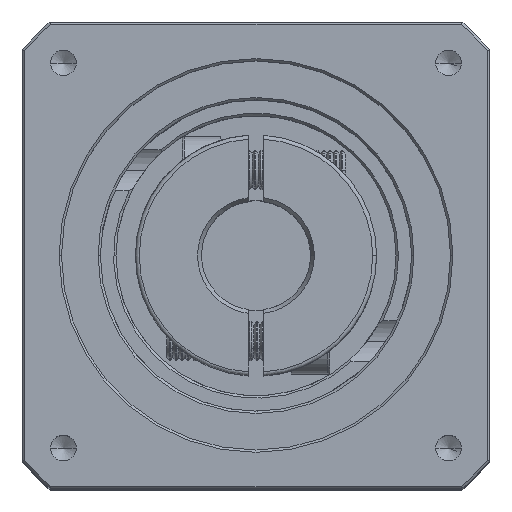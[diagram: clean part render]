
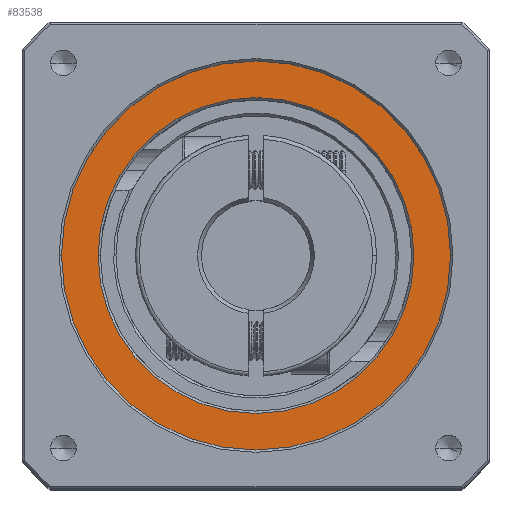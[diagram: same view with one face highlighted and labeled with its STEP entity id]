
A CAD part, top view. The second image highlights one B-rep face of the part: STEP entity #83538.
In plain terms, the highlighted planar face has unit normal (0, 0, 1).
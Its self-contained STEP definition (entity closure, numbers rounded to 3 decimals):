
#1578 = DIRECTION ( 'NONE',  ( 0., 0., -1. ) ) ;
#1587 = VERTEX_POINT ( 'NONE', #62472 ) ;
#3444 = VERTEX_POINT ( 'NONE', #57848 ) ;
#9585 = ORIENTED_EDGE ( 'NONE', *, *, #15070, .T. ) ;
#9893 = AXIS2_PLACEMENT_3D ( 'NONE', #32743, #79190, #39475 ) ;
#12924 = PLANE ( 'NONE',  #29647 ) ;
#15070 = EDGE_CURVE ( 'NONE', #20964, #1587, #24820, .T. ) ;
#16361 = CIRCLE ( 'NONE', #47458, 20.3 ) ;
#17871 = DIRECTION ( 'NONE',  ( 0., 0., -1. ) ) ;
#19313 = EDGE_CURVE ( 'NONE', #1587, #20964, #16361, .T. ) ;
#20356 = CARTESIAN_POINT ( 'NONE',  ( -34.367, 7.391, -1.11 ) ) ;
#20964 = VERTEX_POINT ( 'NONE', #74027 ) ;
#24820 = CIRCLE ( 'NONE', #41507, 20.3 ) ;
#26053 = ORIENTED_EDGE ( 'NONE', *, *, #19313, .T. ) ;
#27477 = CIRCLE ( 'NONE', #74963, 25. ) ;
#29647 = AXIS2_PLACEMENT_3D ( 'NONE', #39651, #86074, #46338 ) ;
#29853 = FACE_OUTER_BOUND ( 'NONE', #51417, .T. ) ;
#32743 = CARTESIAN_POINT ( 'NONE',  ( -59.367, 7.391, -1.11 ) ) ;
#35626 = DIRECTION ( 'NONE',  ( 0., 0., 1. ) ) ;
#38512 = EDGE_CURVE ( 'NONE', #3444, #82639, #75350, .T. ) ;
#38756 = EDGE_CURVE ( 'NONE', #82639, #3444, #27477, .T. ) ;
#39475 = DIRECTION ( 'NONE',  ( 1., 0., 0. ) ) ;
#39651 = CARTESIAN_POINT ( 'NONE',  ( -59.367, 7.391, -1.11 ) ) ;
#41360 = CARTESIAN_POINT ( 'NONE',  ( -59.367, 7.391, -1.11 ) ) ;
#41507 = AXIS2_PLACEMENT_3D ( 'NONE', #57627, #17871, #64276 ) ;
#46338 = DIRECTION ( 'NONE',  ( 1., 0., 0. ) ) ;
#46782 = ORIENTED_EDGE ( 'NONE', *, *, #38756, .T. ) ;
#47458 = AXIS2_PLACEMENT_3D ( 'NONE', #41360, #1578, #47998 ) ;
#47550 = FACE_BOUND ( 'NONE', #83132, .T. ) ;
#47998 = DIRECTION ( 'NONE',  ( 1., 0., 0. ) ) ;
#51417 = EDGE_LOOP ( 'NONE', ( #46782, #60481 ) ) ;
#57627 = CARTESIAN_POINT ( 'NONE',  ( -59.367, 7.391, -1.11 ) ) ;
#57848 = CARTESIAN_POINT ( 'NONE',  ( -84.367, 7.391, -1.11 ) ) ;
#60481 = ORIENTED_EDGE ( 'NONE', *, *, #38512, .T. ) ;
#62472 = CARTESIAN_POINT ( 'NONE',  ( -79.667, 7.391, -1.11 ) ) ;
#64276 = DIRECTION ( 'NONE',  ( 1., 0., 0. ) ) ;
#74027 = CARTESIAN_POINT ( 'NONE',  ( -39.067, 7.391, -1.11 ) ) ;
#74963 = AXIS2_PLACEMENT_3D ( 'NONE', #75360, #35626, #82053 ) ;
#75350 = CIRCLE ( 'NONE', #9893, 25. ) ;
#75360 = CARTESIAN_POINT ( 'NONE',  ( -59.367, 7.391, -1.11 ) ) ;
#79190 = DIRECTION ( 'NONE',  ( 0., 0., 1. ) ) ;
#82053 = DIRECTION ( 'NONE',  ( 1., 0., 0. ) ) ;
#82639 = VERTEX_POINT ( 'NONE', #20356 ) ;
#83132 = EDGE_LOOP ( 'NONE', ( #9585, #26053 ) ) ;
#83538 = ADVANCED_FACE ( 'NONE', ( #47550, #29853 ), #12924, .T. ) ;
#86074 = DIRECTION ( 'NONE',  ( 0., 0., 1. ) ) ;
